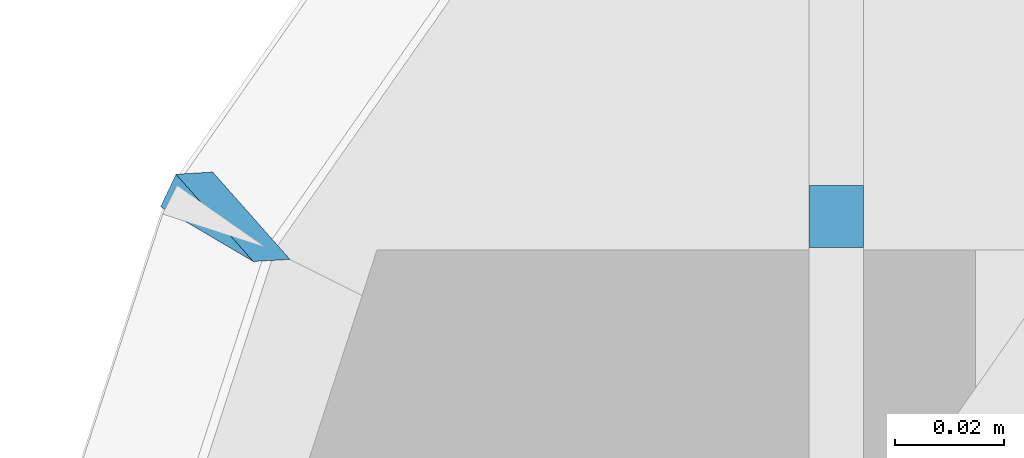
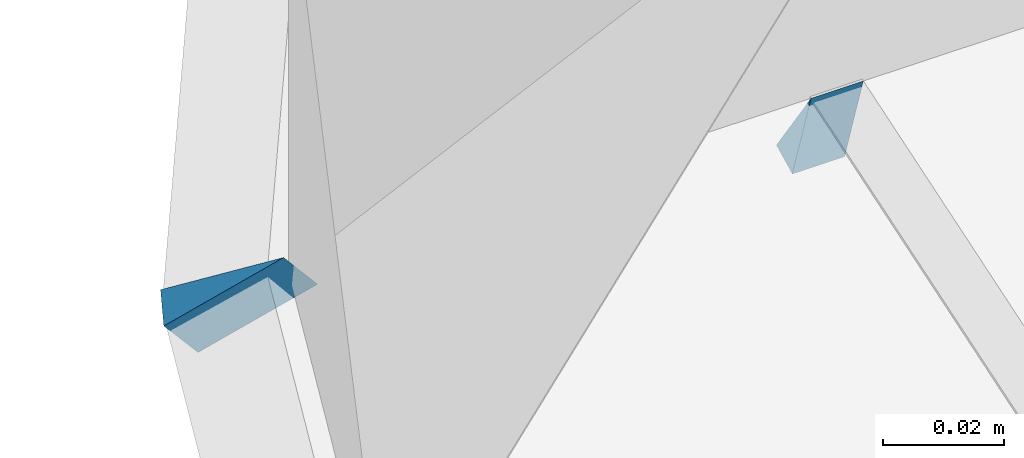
# One storey, part 340 of 583: 2 slabs.
"""IFC2X3 building model written with IfcOpenShell, lengths in metres."""

from ifc_helpers import new_model, entity, si_unit, converted_unit, derived_unit, money_unit, direction, frame, origin_with_axes, place, context, subcontext, project, spatial, faceted_brep, material, type_object, element, save


model = new_model("IFC2X3")

# Units and contexts
model_context = context("Model", 3, precision=1e-05, world=origin_with_axes(), true_north=direction((0.0, 1.0)))
body_context = subcontext(model_context, "Body", "Model", "MODEL_VIEW", scale=1.0)
ifc_project = project(units=[si_unit("LENGTHUNIT", "METRE"), si_unit("AREAUNIT", "SQUARE_METRE"), si_unit("VOLUMEUNIT", "CUBIC_METRE"), si_unit("ABSORBEDDOSEUNIT", "GRAY"), si_unit("AMOUNTOFSUBSTANCEUNIT", "MOLE"), si_unit("DOSEEQUIVALENTUNIT", "SIEVERT"), si_unit("ELECTRICCAPACITANCEUNIT", "FARAD"), si_unit("ELECTRICCHARGEUNIT", "COULOMB"), si_unit("ELECTRICCONDUCTANCEUNIT", "SIEMENS"), si_unit("ELECTRICCURRENTUNIT", "AMPERE"), si_unit("ELECTRICRESISTANCEUNIT", "OHM"), si_unit("ELECTRICVOLTAGEUNIT", "VOLT"), si_unit("ENERGYUNIT", "JOULE"), si_unit("FORCEUNIT", "NEWTON"), si_unit("FREQUENCYUNIT", "HERTZ"), si_unit("ILLUMINANCEUNIT", "LUX"), si_unit("INDUCTANCEUNIT", "HENRY"), si_unit("LUMINOUSFLUXUNIT", "LUMEN"), si_unit("LUMINOUSINTENSITYUNIT", "CANDELA"), si_unit("MAGNETICFLUXDENSITYUNIT", "TESLA"), si_unit("MAGNETICFLUXUNIT", "WEBER"), si_unit("MASSUNIT", "GRAM"), converted_unit("PLANEANGLEUNIT", "degree", entity("IfcReal", 0.0174532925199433), si_unit("PLANEANGLEUNIT", "RADIAN"), dimensions=[0, 0, 0, 0, 0, 0, 0]), si_unit("POWERUNIT", "WATT"), si_unit("PRESSUREUNIT", "PASCAL"), si_unit("RADIOACTIVITYUNIT", "BECQUEREL"), si_unit("SOLIDANGLEUNIT", "STERADIAN"), si_unit("THERMODYNAMICTEMPERATUREUNIT", "KELVIN"), si_unit("TIMEUNIT", "SECOND"), derived_unit("ACCELERATIONUNIT", [(si_unit("LENGTHUNIT", "METRE"), 1), (si_unit("TIMEUNIT", "SECOND"), -2)]), derived_unit("ANGULARVELOCITYUNIT", [(converted_unit("PLANEANGLEUNIT", "degree", entity("IfcReal", 0.0174532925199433), si_unit("PLANEANGLEUNIT", "RADIAN"), dimensions=[0, 0, 0, 0, 0, 0, 0]), 1), (si_unit("TIMEUNIT", "SECOND"), -1)]), derived_unit("CURVATUREUNIT", [(converted_unit("PLANEANGLEUNIT", "degree", entity("IfcReal", 0.0174532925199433), si_unit("PLANEANGLEUNIT", "RADIAN"), dimensions=[0, 0, 0, 0, 0, 0, 0]), 1), (si_unit("LENGTHUNIT", "METRE"), -1)]), derived_unit("DYNAMICVISCOSITYUNIT", [(si_unit("PRESSUREUNIT", "PASCAL"), 1), (si_unit("TIMEUNIT", "SECOND"), 1)]), derived_unit("HEATFLUXDENSITYUNIT", [(si_unit("POWERUNIT", "WATT"), 1), (si_unit("LENGTHUNIT", "METRE"), -2)]), derived_unit("HEATINGVALUEUNIT", [(si_unit("ENERGYUNIT", "JOULE"), 1), (si_unit("MASSUNIT", "GRAM"), -1)]), derived_unit("INTEGERCOUNTRATEUNIT", [(si_unit("TIMEUNIT", "SECOND"), -1)]), derived_unit("IONCONCENTRATIONUNIT", [(si_unit("MASSUNIT", "GRAM"), 1), (si_unit("VOLUMEUNIT", "CUBIC_METRE"), -1)]), derived_unit("ISOTHERMALMOISTURECAPACITYUNIT", [(si_unit("VOLUMEUNIT", "CUBIC_METRE"), 1), (si_unit("MASSUNIT", "GRAM"), -1)]), derived_unit("KINEMATICVISCOSITYUNIT", [(si_unit("AREAUNIT", "SQUARE_METRE"), 1), (si_unit("TIMEUNIT", "SECOND"), -1)]), derived_unit("LINEARFORCEUNIT", [(si_unit("FORCEUNIT", "NEWTON"), 1), (si_unit("LENGTHUNIT", "METRE"), -1)]), derived_unit("LINEARMOMENTUNIT", [(si_unit("FORCEUNIT", "NEWTON"), 1), (si_unit("LENGTHUNIT", "METRE"), -1)]), derived_unit("LINEARSTIFFNESSUNIT", [(si_unit("FORCEUNIT", "NEWTON"), 1), (si_unit("LENGTHUNIT", "METRE"), -1)]), derived_unit("LINEARVELOCITYUNIT", [(si_unit("LENGTHUNIT", "METRE"), 1), (si_unit("TIMEUNIT", "SECOND"), -1)]), derived_unit("LUMINOUSINTENSITYDISTRIBUTIONUNIT", [(si_unit("LUMINOUSINTENSITYUNIT", "CANDELA"), 1), (si_unit("LUMINOUSFLUXUNIT", "LUMEN"), -1)]), derived_unit("MASSDENSITYUNIT", [(si_unit("MASSUNIT", "GRAM"), 1), (si_unit("VOLUMEUNIT", "CUBIC_METRE"), -1)]), derived_unit("MASSFLOWRATEUNIT", [(si_unit("MASSUNIT", "GRAM"), 1), (si_unit("TIMEUNIT", "SECOND"), -1)]), derived_unit("MASSPERLENGTHUNIT", [(si_unit("MASSUNIT", "GRAM"), 1), (si_unit("LENGTHUNIT", "METRE"), -1)]), derived_unit("MODULUSOFELASTICITYUNIT", [(si_unit("FORCEUNIT", "NEWTON"), 1), (si_unit("AREAUNIT", "SQUARE_METRE"), -1)]), derived_unit("MODULUSOFLINEARSUBGRADEREACTIONUNIT", [(si_unit("FORCEUNIT", "NEWTON"), 1), (si_unit("LENGTHUNIT", "METRE"), -2)]), derived_unit("MODULUSOFROTATIONALSUBGRADEREACTIONUNIT", [(si_unit("FORCEUNIT", "NEWTON"), 1), (si_unit("LENGTHUNIT", "METRE"), 1)]), derived_unit("MODULUSOFSUBGRADEREACTIONUNIT", [(si_unit("FORCEUNIT", "NEWTON"), 1), (si_unit("VOLUMEUNIT", "CUBIC_METRE"), -1)]), derived_unit("MOISTUREDIFFUSIVITYUNIT", [(si_unit("VOLUMEUNIT", "CUBIC_METRE"), 1), (si_unit("TIMEUNIT", "SECOND"), -1)]), derived_unit("MOLECULARWEIGHTUNIT", [(si_unit("MASSUNIT", "GRAM"), 1), (si_unit("AMOUNTOFSUBSTANCEUNIT", "MOLE"), -1)]), derived_unit("PLANARFORCEUNIT", [(si_unit("FORCEUNIT", "NEWTON"), 1), (si_unit("LENGTHUNIT", "METRE"), -2)]), derived_unit("ROTATIONALFREQUENCYUNIT", [(si_unit("TIMEUNIT", "SECOND"), -1)]), derived_unit("ROTATIONALMASSUNIT", [(si_unit("MASSUNIT", "GRAM"), 1), (si_unit("LENGTHUNIT", "METRE"), 2)]), derived_unit("ROTATIONALSTIFFNESSUNIT", [(si_unit("FORCEUNIT", "NEWTON"), 1), (si_unit("LENGTHUNIT", "METRE"), 1), (converted_unit("PLANEANGLEUNIT", "degree", entity("IfcReal", 0.0174532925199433), si_unit("PLANEANGLEUNIT", "RADIAN"), dimensions=[0, 0, 0, 0, 0, 0, 0]), -1)]), derived_unit("SECTIONAREAINTEGRALUNIT", [(si_unit("LENGTHUNIT", "METRE"), 5)]), derived_unit("SECTIONMODULUSUNIT", [(si_unit("LENGTHUNIT", "METRE"), 3)]), derived_unit("SHEARMODULUSUNIT", [(si_unit("FORCEUNIT", "NEWTON"), 1), (si_unit("AREAUNIT", "SQUARE_METRE"), -1)]), derived_unit("SOUNDPOWERUNIT", [(si_unit("ENERGYUNIT", "JOULE"), 1), (si_unit("TIMEUNIT", "SECOND"), -1)]), derived_unit("SPECIFICHEATCAPACITYUNIT", [(si_unit("FORCEUNIT", "NEWTON"), 1), (si_unit("MASSUNIT", "GRAM"), -1), (si_unit("THERMODYNAMICTEMPERATUREUNIT", "KELVIN"), -1)]), derived_unit("TEMPERATUREGRADIENTUNIT", [(si_unit("THERMODYNAMICTEMPERATUREUNIT", "KELVIN"), 1), (si_unit("LENGTHUNIT", "METRE"), -1)]), derived_unit("THERMALADMITTANCEUNIT", [(si_unit("POWERUNIT", "WATT"), 1), (si_unit("AREAUNIT", "SQUARE_METRE"), -1), (si_unit("THERMODYNAMICTEMPERATUREUNIT", "KELVIN"), -1)]), derived_unit("THERMALCONDUCTANCEUNIT", [(si_unit("POWERUNIT", "WATT"), 1), (si_unit("LENGTHUNIT", "METRE"), -1), (si_unit("THERMODYNAMICTEMPERATUREUNIT", "KELVIN"), -1)]), derived_unit("THERMALEXPANSIONCOEFFICIENTUNIT", [(si_unit("THERMODYNAMICTEMPERATUREUNIT", "KELVIN"), -1)]), derived_unit("THERMALRESISTANCEUNIT", [(si_unit("AREAUNIT", "SQUARE_METRE"), 1), (si_unit("POWERUNIT", "WATT"), -1)]), derived_unit("THERMALTRANSMITTANCEUNIT", [(si_unit("POWERUNIT", "WATT"), 1), (si_unit("AREAUNIT", "SQUARE_METRE"), -1), (si_unit("THERMODYNAMICTEMPERATUREUNIT", "KELVIN"), -1)]), derived_unit("TORQUEUNIT", [(si_unit("FORCEUNIT", "NEWTON"), 1), (si_unit("LENGTHUNIT", "METRE"), 1)]), derived_unit("VAPORPERMEABILITYUNIT", [(si_unit("MASSUNIT", "GRAM"), 1), (si_unit("TIMEUNIT", "SECOND"), -1)]), derived_unit("VOLUMETRICFLOWRATEUNIT", [(si_unit("VOLUMEUNIT", "CUBIC_METRE"), 1), (si_unit("TIMEUNIT", "SECOND"), -1)]), derived_unit("WARPINGCONSTANTUNIT", [(si_unit("LENGTHUNIT", "METRE"), 6)]), derived_unit("WARPINGMOMENTUNIT", [(si_unit("FORCEUNIT", "NEWTON"), 1), (si_unit("LENGTHUNIT", "METRE"), 2)]), money_unit("GBP")], contexts=[model_context])

# Site, building, storey
site_placement = place(None, origin_with_axes())
site = spatial("IfcSite", under=ifc_project, at=site_placement, Name="Site", CompositionType="ELEMENT")
building_placement = place(site_placement, origin_with_axes())
building = spatial("IfcBuilding", under=site, at=building_placement, Name="Building01", CompositionType="ELEMENT")
storey_placement = place(building_placement, frame((0.0, 0.0, 20.78), z_axis=(0.0, 0.0, 1.0), x_axis=(1.0, 0.0, 0.0)))
storey = spatial("IfcBuildingStorey", under=building, at=storey_placement, Name="RL", CompositionType="ELEMENT", Elevation=20.78)

# Slabs
ifc_material = material(Name="A_BSUK_Roofs")
slab_type = type_object("IfcSlabType", Name="A-FloorsSlabs A_BSUK_Slabs", PredefinedType="FLOOR")
slab_1_placement = place(storey_placement, frame((1.443975, 18.791933, -19.462123), z_axis=(0.0, 1.0, 0.0), x_axis=(-1.0, 0.0, 0.0)))
element("IfcSlab", 1, at=slab_1_placement, inside=storey, type_object=slab_type, material=ifc_material, Name="A-FloorsSlabs A_BSUK_Slabs", ObjectType="A-FloorsSlabs A_BSUK_Slabs", context=body_context, shape_type="Brep", body=[
    faceted_brep([(0.0, -0.002638, -0.005291), (0.01, -0.002638, -0.005291), (0.01, 0.0, 0.0), (0.0, 0.0, 0.0), (0.0, 0.016383, -0.011472), (0.01, 0.016383, -0.011472)], [[[0, 1, 2, 3]], [[4, 5, 1, 0]], [[3, 2, 5, 4]], [[1, 5, 2]], [[3, 4, 0]]]),
])
slab_2_placement = place(storey_placement, frame((1.317818, 18.79295, -19.452991), z_axis=(0.06298158, 0.99275668, 0.10231077), x_axis=(-0.64588417, -0.03760644, 0.76250862)))
element("IfcSlab", 2, at=slab_2_placement, inside=storey, type_object=slab_type, material=ifc_material, Name="A-FloorsSlabs A_BSUK_Slabs", ObjectType="A-FloorsSlabs A_BSUK_Slabs", context=body_context, shape_type="Brep", body=[
    faceted_brep([(0.000941, 0.000536, 0.001113), (-0.00951, 0.000536, 0.001113), (-0.00951, -0.002654, -0.005286), (0.000941, -0.002654, -0.005286), (-0.00951, 0.020349, -0.01276), (0.000941, 0.020349, -0.01276)], [[[0, 1, 2, 3]], [[3, 2, 4, 5]], [[5, 4, 1, 0]], [[1, 4, 2]], [[3, 5, 0]]]),
])

save(model, "model.ifc")
